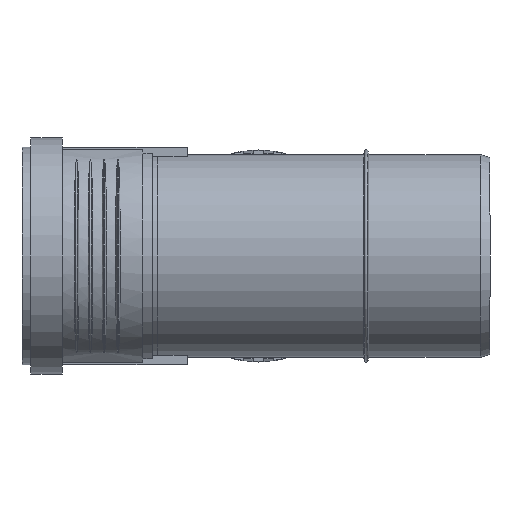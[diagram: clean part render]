
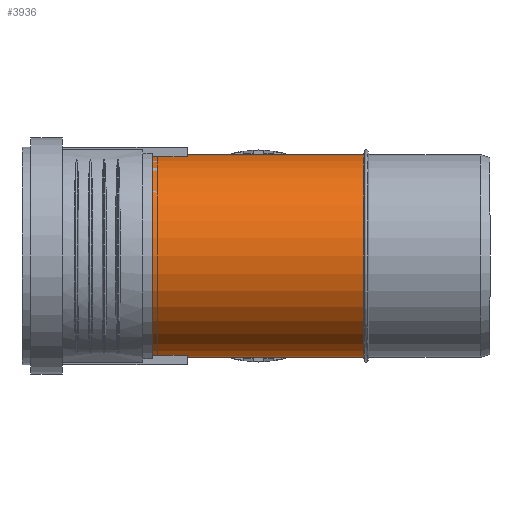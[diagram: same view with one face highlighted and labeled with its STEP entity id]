
A CAD part, left-side view. The second image highlights one B-rep face of the part: STEP entity #3936.
In plain terms, the highlighted cylindrical face has radius 62.6 mm (diameter 125.2 mm), a full revolution.
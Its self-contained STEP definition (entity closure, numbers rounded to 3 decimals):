
#137=FACE_BOUND($,#1160,.T.);
#138=FACE_BOUND($,#1161,.T.);
#190=LINE($,#5619,#490);
#191=LINE($,#5622,#491);
#490=VECTOR($,#4529,3.038);
#491=VECTOR($,#4532,3.038);
#951=FACE_OUTER_BOUND($,#1159,.T.);
#1159=EDGE_LOOP($,(#2570));
#1160=EDGE_LOOP($,(#2571));
#1161=EDGE_LOOP($,(#2572,#2573,#2574,#2575,#2576,#2577,#2578));
#1417=B_SPLINE_CURVE_WITH_KNOTS($,3,(#5544,#5545,#5546,#5547,#5548,#5549,
#5550,#5551,#5552,#5553,#5554,#5555,#5556,#5557,#5558,#5559,#5560,#5561,
#5562,#5563,#5564,#5565,#5566,#5567,#5568,#5569,#5570,#5571,#5572,#5573,
#5574,#5575,#5576,#5577),.UNSPECIFIED.,.F.,.F.,(4,2,2,2,2,2,2,2,2,2,2,2,
2,2,2,2,4),(8.978,10.069,11.16,12.252,
13.343,14.496,15.649,16.803,17.956,
19.109,20.263,21.416,22.569,23.661,
24.752,25.843,26.934),.UNSPECIFIED.);
#1418=B_SPLINE_CURVE_WITH_KNOTS($,3,(#5581,#5582,#5583,#5584,#5585,#5586,
#5587,#5588,#5589,#5590,#5591,#5592,#5593,#5594,#5595,#5596,#5597,#5598),
 .UNSPECIFIED.,.F.,.F.,(4,2,2,2,2,2,2,2,4),(0.,1.153,2.307,
3.46,4.613,5.705,6.796,7.887,
8.978),.UNSPECIFIED.);
#1419=B_SPLINE_CURVE_WITH_KNOTS($,3,(#5599,#5600,#5601,#5602,#5603,#5604,
#5605,#5606,#5607,#5608,#5609,#5610,#5611,#5612,#5613,#5614,#5615,#5616),
 .UNSPECIFIED.,.F.,.F.,(4,2,2,2,2,2,2,2,4),(26.934,28.025,
29.117,30.208,31.299,32.452,33.606,
34.759,35.912),.UNSPECIFIED.);
#1474=CIRCLE($,#4164,62.6);
#1475=CIRCLE($,#4165,62.6);
#1608=VERTEX_POINT($,#5541);
#1609=VERTEX_POINT($,#5542);
#1610=VERTEX_POINT($,#5580);
#1611=VERTEX_POINT($,#5618);
#1612=VERTEX_POINT($,#5620);
#1613=VERTEX_POINT($,#5624);
#1614=VERTEX_POINT($,#5626);
#1999=EDGE_CURVE($,#1609,#1608,#1417,.T.);
#2001=EDGE_CURVE($,#1610,#1609,#1418,.T.);
#2002=EDGE_CURVE($,#1608,#1610,#1419,.T.);
#2003=EDGE_CURVE($,#1609,#1611,#190,.T.);
#2005=EDGE_CURVE($,#1612,#1608,#191,.T.);
#2006=EDGE_CURVE($,#1613,#1613,#1474,.T.);
#2007=EDGE_CURVE($,#1614,#1614,#1475,.T.);
#2570=ORIENTED_EDGE($,*,*,#2006,.T.);
#2571=ORIENTED_EDGE($,*,*,#2007,.F.);
#2572=ORIENTED_EDGE($,*,*,#1999,.T.);
#2573=ORIENTED_EDGE($,*,*,#2005,.F.);
#2574=ORIENTED_EDGE($,*,*,#2005,.T.);
#2575=ORIENTED_EDGE($,*,*,#2002,.T.);
#2576=ORIENTED_EDGE($,*,*,#2001,.T.);
#2577=ORIENTED_EDGE($,*,*,#2003,.T.);
#2578=ORIENTED_EDGE($,*,*,#2003,.F.);
#3693=CYLINDRICAL_SURFACE($,#4163,62.6);
#3936=ADVANCED_FACE($,(#951,#137,#138),#3693,.T.);
#4163=AXIS2_PLACEMENT_3D($,#5623,#4533,#4534);
#4164=AXIS2_PLACEMENT_3D($,#5625,#4535,#4536);
#4165=AXIS2_PLACEMENT_3D($,#5627,#4537,#4538);
#4529=DIRECTION($,(0.,1.,0.));
#4532=DIRECTION($,(0.,1.,0.));
#4533=DIRECTION('center_axis',(0.,1.,0.));
#4534=DIRECTION('ref_axis',(-1.,0.,0.));
#4535=DIRECTION('center_axis',(0.,1.,0.));
#4536=DIRECTION('ref_axis',(-1.,0.,0.));
#4537=DIRECTION('center_axis',(0.,1.,0.));
#4538=DIRECTION('ref_axis',(-1.,0.,0.));
#5541=CARTESIAN_POINT('',(62.6,88.713,0.));
#5542=CARTESIAN_POINT('',(62.6,197.288,0.));
#5544=CARTESIAN_POINT('Ctrl Pts',(62.6,197.288,0.));
#5545=CARTESIAN_POINT('Ctrl Pts',(62.6,197.288,-3.637));
#5546=CARTESIAN_POINT('Ctrl Pts',(62.277,196.916,-7.333));
#5547=CARTESIAN_POINT('Ctrl Pts',(60.995,195.43,-14.554));
#5548=CARTESIAN_POINT('Ctrl Pts',(60.036,194.316,-18.081));
#5549=CARTESIAN_POINT('Ctrl Pts',(57.618,191.464,-24.728));
#5550=CARTESIAN_POINT('Ctrl Pts',(56.156,189.724,-27.856));
#5551=CARTESIAN_POINT('Ctrl Pts',(52.946,185.813,-33.558));
#5552=CARTESIAN_POINT('Ctrl Pts',(51.199,183.642,-36.132));
#5553=CARTESIAN_POINT('Ctrl Pts',(47.599,179.004,-40.77));
#5554=CARTESIAN_POINT('Ctrl Pts',(45.6,176.346,-42.979));
#5555=CARTESIAN_POINT('Ctrl Pts',(41.587,170.605,-46.874));
#5556=CARTESIAN_POINT('Ctrl Pts',(39.571,167.523,-48.561));
#5557=CARTESIAN_POINT('Ctrl Pts',(35.914,161.038,-51.324));
#5558=CARTESIAN_POINT('Ctrl Pts',(34.274,157.638,-52.402));
#5559=CARTESIAN_POINT('Ctrl Pts',(31.896,150.543,-53.883));
#5560=CARTESIAN_POINT('Ctrl Pts',(31.171,146.844,-54.288));
#5561=CARTESIAN_POINT('Ctrl Pts',(31.171,139.156,-54.288));
#5562=CARTESIAN_POINT('Ctrl Pts',(31.896,135.457,-53.883));
#5563=CARTESIAN_POINT('Ctrl Pts',(34.274,128.362,-52.402));
#5564=CARTESIAN_POINT('Ctrl Pts',(35.914,124.962,-51.324));
#5565=CARTESIAN_POINT('Ctrl Pts',(39.571,118.477,-48.561));
#5566=CARTESIAN_POINT('Ctrl Pts',(41.587,115.395,-46.874));
#5567=CARTESIAN_POINT('Ctrl Pts',(45.6,109.654,-42.979));
#5568=CARTESIAN_POINT('Ctrl Pts',(47.599,106.996,-40.77));
#5569=CARTESIAN_POINT('Ctrl Pts',(51.199,102.358,-36.132));
#5570=CARTESIAN_POINT('Ctrl Pts',(52.946,100.187,-33.558));
#5571=CARTESIAN_POINT('Ctrl Pts',(56.156,96.276,-27.856));
#5572=CARTESIAN_POINT('Ctrl Pts',(57.618,94.536,-24.728));
#5573=CARTESIAN_POINT('Ctrl Pts',(60.036,91.684,-18.081));
#5574=CARTESIAN_POINT('Ctrl Pts',(60.995,90.57,-14.554));
#5575=CARTESIAN_POINT('Ctrl Pts',(62.277,89.084,-7.333));
#5576=CARTESIAN_POINT('Ctrl Pts',(62.6,88.713,-3.637));
#5577=CARTESIAN_POINT('Ctrl Pts',(62.6,88.713,0.));
#5580=CARTESIAN_POINT('',(31.171,143.,54.288));
#5581=CARTESIAN_POINT('Ctrl Pts',(31.171,143.,54.288));
#5582=CARTESIAN_POINT('Ctrl Pts',(31.171,146.844,54.288));
#5583=CARTESIAN_POINT('Ctrl Pts',(31.896,150.543,53.883));
#5584=CARTESIAN_POINT('Ctrl Pts',(34.274,157.638,52.402));
#5585=CARTESIAN_POINT('Ctrl Pts',(35.914,161.038,51.324));
#5586=CARTESIAN_POINT('Ctrl Pts',(39.571,167.523,48.561));
#5587=CARTESIAN_POINT('Ctrl Pts',(41.587,170.605,46.874));
#5588=CARTESIAN_POINT('Ctrl Pts',(45.6,176.346,42.979));
#5589=CARTESIAN_POINT('Ctrl Pts',(47.599,179.004,40.77));
#5590=CARTESIAN_POINT('Ctrl Pts',(51.199,183.642,36.132));
#5591=CARTESIAN_POINT('Ctrl Pts',(52.946,185.813,33.558));
#5592=CARTESIAN_POINT('Ctrl Pts',(56.156,189.724,27.856));
#5593=CARTESIAN_POINT('Ctrl Pts',(57.618,191.464,24.728));
#5594=CARTESIAN_POINT('Ctrl Pts',(60.036,194.316,18.081));
#5595=CARTESIAN_POINT('Ctrl Pts',(60.995,195.43,14.554));
#5596=CARTESIAN_POINT('Ctrl Pts',(62.277,196.916,7.333));
#5597=CARTESIAN_POINT('Ctrl Pts',(62.6,197.288,3.637));
#5598=CARTESIAN_POINT('Ctrl Pts',(62.6,197.288,0.));
#5599=CARTESIAN_POINT('Ctrl Pts',(62.6,88.713,0.));
#5600=CARTESIAN_POINT('Ctrl Pts',(62.6,88.713,3.637));
#5601=CARTESIAN_POINT('Ctrl Pts',(62.277,89.084,7.333));
#5602=CARTESIAN_POINT('Ctrl Pts',(60.995,90.57,14.554));
#5603=CARTESIAN_POINT('Ctrl Pts',(60.036,91.684,18.081));
#5604=CARTESIAN_POINT('Ctrl Pts',(57.618,94.536,24.728));
#5605=CARTESIAN_POINT('Ctrl Pts',(56.156,96.276,27.856));
#5606=CARTESIAN_POINT('Ctrl Pts',(52.946,100.187,33.558));
#5607=CARTESIAN_POINT('Ctrl Pts',(51.199,102.358,36.132));
#5608=CARTESIAN_POINT('Ctrl Pts',(47.599,106.996,40.77));
#5609=CARTESIAN_POINT('Ctrl Pts',(45.6,109.654,42.979));
#5610=CARTESIAN_POINT('Ctrl Pts',(41.587,115.395,46.874));
#5611=CARTESIAN_POINT('Ctrl Pts',(39.571,118.477,48.561));
#5612=CARTESIAN_POINT('Ctrl Pts',(35.914,124.962,51.324));
#5613=CARTESIAN_POINT('Ctrl Pts',(34.274,128.362,52.402));
#5614=CARTESIAN_POINT('Ctrl Pts',(31.896,135.457,53.883));
#5615=CARTESIAN_POINT('Ctrl Pts',(31.171,139.156,54.288));
#5616=CARTESIAN_POINT('Ctrl Pts',(31.171,143.,54.288));
#5618=CARTESIAN_POINT('',(62.6,200.325,0.));
#5619=CARTESIAN_POINT($,(62.6,146.5,0.));
#5620=CARTESIAN_POINT('',(62.6,85.675,0.));
#5622=CARTESIAN_POINT($,(62.6,146.5,0.));
#5623=CARTESIAN_POINT('Origin',(0.,146.5,0.));
#5624=CARTESIAN_POINT('',(-62.6,77.9,0.));
#5625=CARTESIAN_POINT('Origin',(0.,77.9,0.));
#5626=CARTESIAN_POINT('',(-62.6,215.1,0.));
#5627=CARTESIAN_POINT('Origin',(0.,215.1,0.));
